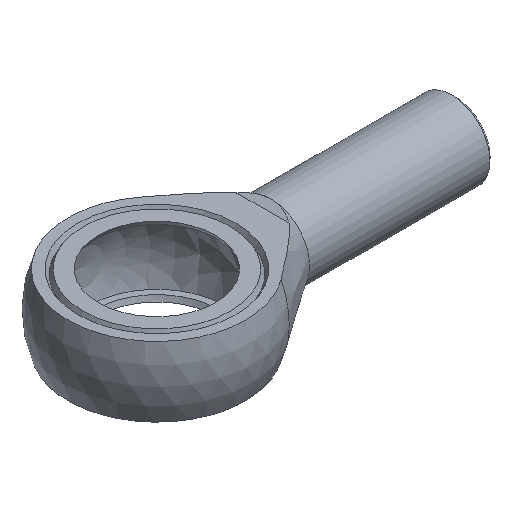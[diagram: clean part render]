
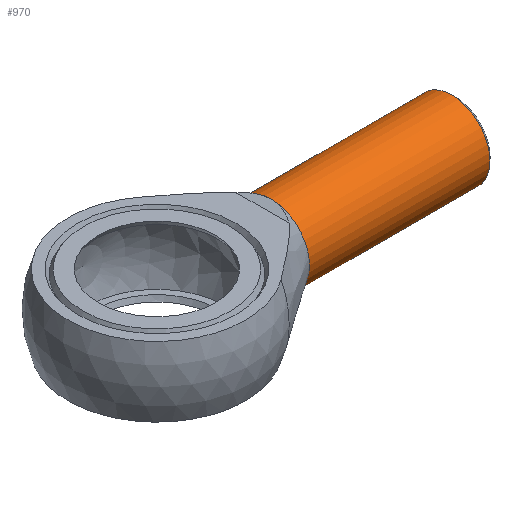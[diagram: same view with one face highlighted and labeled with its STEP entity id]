
A CAD part, isometric view. The second image highlights one B-rep face of the part: STEP entity #970.
In plain terms, the highlighted cylindrical face has radius 12 mm (diameter 24 mm), a full revolution.
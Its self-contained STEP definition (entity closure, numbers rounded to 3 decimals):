
#58 = CARTESIAN_POINT ( 'NONE',  ( 92.773, 0., -12. ) ) ;
#73 = EDGE_CURVE ( 'NONE', #757, #1000, #354, .T. ) ;
#134 = DIRECTION ( 'NONE',  ( 1., 0., 0. ) ) ;
#160 = DIRECTION ( 'NONE',  ( 0., 0., 1. ) ) ;
#171 = EDGE_CURVE ( 'NONE', #993, #993, #987, .T. ) ;
#183 = EDGE_LOOP ( 'NONE', ( #519 ) ) ;
#185 = DIRECTION ( 'NONE',  ( 1., 0., 0. ) ) ;
#235 = FACE_OUTER_BOUND ( 'NONE', #183, .T. ) ;
#252 = DIRECTION ( 'NONE',  ( 0., 0., -1. ) ) ;
#277 = AXIS2_PLACEMENT_3D ( 'NONE', #487, #134, #998 ) ;
#354 = CIRCLE ( 'NONE', #277, 12. ) ;
#487 = CARTESIAN_POINT ( 'NONE',  ( 36., 0., 0. ) ) ;
#511 = CARTESIAN_POINT ( 'NONE',  ( 36., 0., 12. ) ) ;
#519 = ORIENTED_EDGE ( 'NONE', *, *, #171, .F. ) ;
#585 = CYLINDRICAL_SURFACE ( 'NONE', #865, 12. ) ;
#594 = CARTESIAN_POINT ( 'NONE',  ( 36., 0., 0. ) ) ;
#597 = ORIENTED_EDGE ( 'NONE', *, *, #73, .T. ) ;
#635 = CIRCLE ( 'NONE', #1070, 12. ) ;
#673 = CARTESIAN_POINT ( 'NONE',  ( 94., 0., 0. ) ) ;
#684 = DIRECTION ( 'NONE',  ( 1., 0., 0. ) ) ;
#702 = CARTESIAN_POINT ( 'NONE',  ( 92.773, 0., 0. ) ) ;
#744 = ORIENTED_EDGE ( 'NONE', *, *, #994, .T. ) ;
#754 = AXIS2_PLACEMENT_3D ( 'NONE', #702, #185, #874 ) ;
#757 = VERTEX_POINT ( 'NONE', #1086 ) ;
#865 = AXIS2_PLACEMENT_3D ( 'NONE', #673, #684, #252 ) ;
#874 = DIRECTION ( 'NONE',  ( 0., 0., -1. ) ) ;
#970 = ADVANCED_FACE ( 'NONE', ( #235, #1114 ), #585, .T. ) ;
#987 = CIRCLE ( 'NONE', #754, 12. ) ;
#993 = VERTEX_POINT ( 'NONE', #58 ) ;
#994 = EDGE_CURVE ( 'NONE', #1000, #757, #635, .T. ) ;
#998 = DIRECTION ( 'NONE',  ( 0., 0., -1. ) ) ;
#1000 = VERTEX_POINT ( 'NONE', #511 ) ;
#1017 = DIRECTION ( 'NONE',  ( 1., 0., 0. ) ) ;
#1070 = AXIS2_PLACEMENT_3D ( 'NONE', #594, #1017, #160 ) ;
#1086 = CARTESIAN_POINT ( 'NONE',  ( 36., 0., -12. ) ) ;
#1114 = FACE_OUTER_BOUND ( 'NONE', #1118, .T. ) ;
#1118 = EDGE_LOOP ( 'NONE', ( #597, #744 ) ) ;
